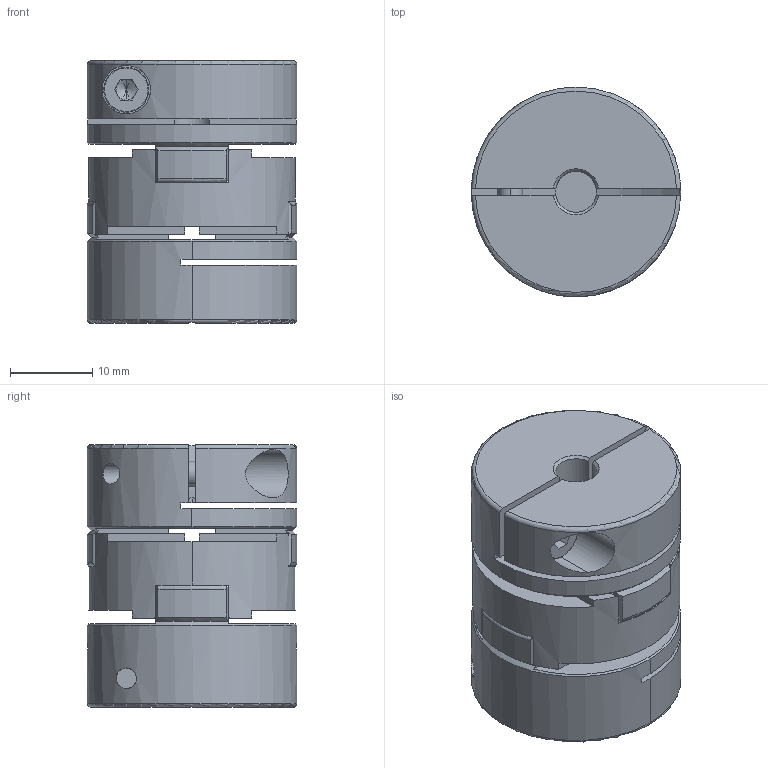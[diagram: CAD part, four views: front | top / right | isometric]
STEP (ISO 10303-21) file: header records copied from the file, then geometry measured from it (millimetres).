
FILE_DESCRIPTION (( 'STEP AP203' ), '1' );
FILE_NAME ('SOH-25C-5X10_203.STEP', '2013-01-20T08:05:00', ( '' ), ( '' ), 'SwSTEP 2.0', 'SolidWorks 2012', '' );
FILE_SCHEMA (( 'CONFIG_CONTROL_DESIGN' ));
Length unit declared in the file: millimetre
Products named in the file (1): SOH-25C-5X10_203
Bounding box: 25.5 x 25.5 x 32 mm (x, y, z)
Volume: 12567 mm3; surface area: 7702.7 mm2
Topology: 1 solids, 1 shells, 226 faces, 641 edges, 405 vertices
Faces by surface type: plane 114, cylinder 65, cone 25, torus 22
Entity records: 7819 total; most frequent: CARTESIAN_POINT 1864, ORIENTED_EDGE 1274, DIRECTION 1214, EDGE_CURVE 637, AXIS2_PLACEMENT_3D 451, VERTEX_POINT 405, VECTOR 312, LINE 312
